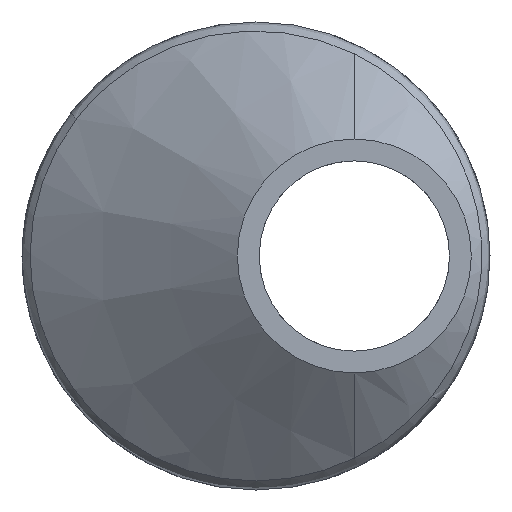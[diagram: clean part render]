
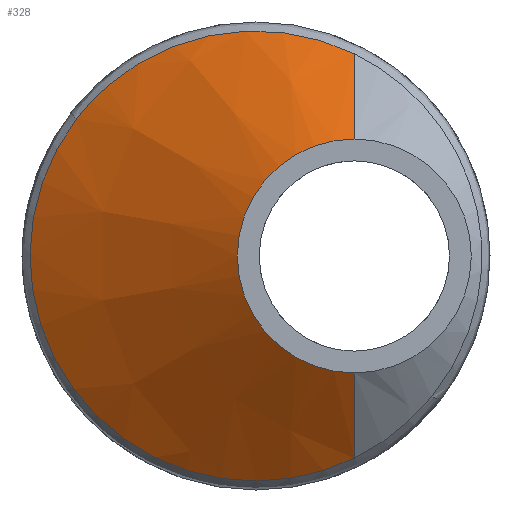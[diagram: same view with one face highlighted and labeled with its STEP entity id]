
A CAD part, left-side view. The second image highlights one B-rep face of the part: STEP entity #328.
In plain terms, the highlighted conical face has half-angle 54.078 degrees and reference radius 4.763 mm.
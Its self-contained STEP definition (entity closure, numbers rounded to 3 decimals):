
#19 = CARTESIAN_POINT ( 'NONE',  ( -27.718, 0.833, -9.138 ) ) ;
#21 = EDGE_CURVE ( 'NONE', #424, #289, #367, .T. ) ;
#33 = CARTESIAN_POINT ( 'NONE',  ( -26.993, 3.518, -8.475 ) ) ;
#59 = CIRCLE ( 'NONE', #538, 4.763 ) ;
#78 = AXIS2_PLACEMENT_3D ( 'NONE', #698, #683, #731 ) ;
#85 = VECTOR ( 'NONE', #368, 1000. ) ;
#106 = CARTESIAN_POINT ( 'NONE',  ( -27.178, 2.81, -8.743 ) ) ;
#113 = CARTESIAN_POINT ( 'NONE',  ( -29.239, -4.003, 8.229 ) ) ;
#146 = ORIENTED_EDGE ( 'NONE', *, *, #1204, .T. ) ;
#185 = EDGE_CURVE ( 'NONE', #289, #1216, #226, .T. ) ;
#205 = CARTESIAN_POINT ( 'NONE',  ( -26.593, 5.101, -7.65 ) ) ;
#218 = CARTESIAN_POINT ( 'NONE',  ( -25.929, 7.9, 4.731 ) ) ;
#226 = B_SPLINE_CURVE_WITH_KNOTS ( 'NONE', 3,
 ( #687, #251, #218, #1149, #836, #794, #1050, #332, #842, #1063, #939, #933, #849, #578, #767, #762, #750, #660, #656, #584, #571, #745, #787, #1193, #873, #978, #322, #480, #205, #310, #305, #298, #33, #106, #494, #984, #19, #730, #1178, #1171, #1168, #1160, #1154, #1140 ),
 .UNSPECIFIED., .F., .F.,
 ( 4, 2, 2, 2, 2, 2, 2, 2, 2, 2, 2, 2, 2, 2, 2, 2, 2, 2, 2, 2, 2, 4 ),
 ( 0.029, 0.031, 0.032, 0.033, 0.034, 0.036, 0.036, 0.037, 0.039, 0.04, 0.04, 0.042, 0.043, 0.043, 0.045, 0.046, 0.047, 0.048, 0.05, 0.051, 0.053, 0.054 ),
 .UNSPECIFIED. ) ;
#251 = CARTESIAN_POINT ( 'NONE',  ( -25.994, 7.616, 5.172 ) ) ;
#289 = VERTEX_POINT ( 'NONE', #951 ) ;
#298 = CARTESIAN_POINT ( 'NONE',  ( -26.933, 3.751, -8.376 ) ) ;
#305 = CARTESIAN_POINT ( 'NONE',  ( -26.816, 4.211, -8.157 ) ) ;
#309 = VECTOR ( 'NONE', #354, 1000. ) ;
#310 = CARTESIAN_POINT ( 'NONE',  ( -26.758, 4.439, -8.036 ) ) ;
#314 = ORIENTED_EDGE ( 'NONE', *, *, #185, .T. ) ;
#320 = FACE_OUTER_BOUND ( 'NONE', #659, .T. ) ;
#322 = CARTESIAN_POINT ( 'NONE',  ( -26.349, 6.105, -6.867 ) ) ;
#328 = ADVANCED_FACE ( 'NONE', ( #320 ), #499, .T. ) ;
#332 = CARTESIAN_POINT ( 'NONE',  ( -25.676, 9.018, 1.832 ) ) ;
#334 = DIRECTION ( 'NONE',  ( 0., 0., -1. ) ) ;
#354 = DIRECTION ( 'NONE',  ( 0.587, 0., -0.81 ) ) ;
#367 = B_SPLINE_CURVE_WITH_KNOTS ( 'NONE', 3,
 ( #821, #760, #818, #723, #736, #726, #824, #749, #1209, #912, #917, #1139, #1133, #1124, #1127, #1152, #1145, #925, #932, #943, #948, #1010 ),
 .UNSPECIFIED., .F., .F.,
 ( 4, 2, 2, 2, 2, 2, 2, 2, 2, 2, 4 ),
 ( 0.016, 0.018, 0.02, 0.021, 0.022, 0.023, 0.024, 0.025, 0.026, 0.028, 0.029 ),
 .UNSPECIFIED. ) ;
#368 = DIRECTION ( 'NONE',  ( 0.587, 0., 0.81 ) ) ;
#377 = ORIENTED_EDGE ( 'NONE', *, *, #21, .T. ) ;
#424 = VERTEX_POINT ( 'NONE', #113 ) ;
#463 = ORIENTED_EDGE ( 'NONE', *, *, #1094, .T. ) ;
#480 = CARTESIAN_POINT ( 'NONE',  ( -26.491, 5.518, -7.357 ) ) ;
#494 = CARTESIAN_POINT ( 'NONE',  ( -27.306, 2.327, -8.882 ) ) ;
#499 = CONICAL_SURFACE ( 'NONE', #78, 4.763, 0.944 ) ;
#530 = CARTESIAN_POINT ( 'NONE',  ( -29.239, -4.002, -8.229 ) ) ;
#538 = AXIS2_PLACEMENT_3D ( 'NONE', #859, #781, #334 ) ;
#547 = CARTESIAN_POINT ( 'NONE',  ( -31.75, -4.003, -4.762 ) ) ;
#552 = LINE ( 'NONE', #547, #309 ) ;
#571 = CARTESIAN_POINT ( 'NONE',  ( -25.897, 8.039, -4.468 ) ) ;
#578 = CARTESIAN_POINT ( 'NONE',  ( -25.655, 9.113, -1.282 ) ) ;
#584 = CARTESIAN_POINT ( 'NONE',  ( -25.869, 8.162, -4.241 ) ) ;
#656 = CARTESIAN_POINT ( 'NONE',  ( -25.817, 8.39, -3.773 ) ) ;
#659 = EDGE_LOOP ( 'NONE', ( #146, #463, #377, #314, #862 ) ) ;
#660 = CARTESIAN_POINT ( 'NONE',  ( -25.794, 8.495, -3.532 ) ) ;
#677 = CARTESIAN_POINT ( 'NONE',  ( -31.75, -4.003, 4.763 ) ) ;
#683 = DIRECTION ( 'NONE',  ( 1., 0., 0. ) ) ;
#687 = CARTESIAN_POINT ( 'NONE',  ( -26.067, 7.299, 5.584 ) ) ;
#698 = CARTESIAN_POINT ( 'NONE',  ( -31.75, -4.003, 0. ) ) ;
#713 = VERTEX_POINT ( 'NONE', #924 ) ;
#723 = CARTESIAN_POINT ( 'NONE',  ( -28.59, -2.071, 8.93 ) ) ;
#726 = CARTESIAN_POINT ( 'NONE',  ( -28.115, -0.532, 9.156 ) ) ;
#730 = CARTESIAN_POINT ( 'NONE',  ( -28.006, -0.166, -9.17 ) ) ;
#731 = DIRECTION ( 'NONE',  ( 0., 0., -1. ) ) ;
#736 = CARTESIAN_POINT ( 'NONE',  ( -28.428, -1.558, 9.035 ) ) ;
#745 = CARTESIAN_POINT ( 'NONE',  ( -25.988, 7.643, -5.132 ) ) ;
#749 = CARTESIAN_POINT ( 'NONE',  ( -27.739, 0.763, 9.134 ) ) ;
#750 = CARTESIAN_POINT ( 'NONE',  ( -25.73, 8.776, -2.801 ) ) ;
#760 = CARTESIAN_POINT ( 'NONE',  ( -29.076, -3.54, 8.454 ) ) ;
#762 = CARTESIAN_POINT ( 'NONE',  ( -25.698, 8.92, -2.303 ) ) ;
#767 = CARTESIAN_POINT ( 'NONE',  ( -25.664, 9.073, -1.539 ) ) ;
#781 = DIRECTION ( 'NONE',  ( 1., 0., 0. ) ) ;
#787 = CARTESIAN_POINT ( 'NONE',  ( -26.057, 7.343, -5.551 ) ) ;
#794 = CARTESIAN_POINT ( 'NONE',  ( -25.719, 8.828, 2.595 ) ) ;
#818 = CARTESIAN_POINT ( 'NONE',  ( -28.914, -3.062, 8.639 ) ) ;
#821 = CARTESIAN_POINT ( 'NONE',  ( -29.239, -4.003, 8.229 ) ) ;
#824 = CARTESIAN_POINT ( 'NONE',  ( -27.962, -0.016, 9.174 ) ) ;
#836 = CARTESIAN_POINT ( 'NONE',  ( -25.773, 8.585, 3.338 ) ) ;
#842 = CARTESIAN_POINT ( 'NONE',  ( -25.665, 9.067, 1.576 ) ) ;
#849 = CARTESIAN_POINT ( 'NONE',  ( -25.642, 9.172, -0.762 ) ) ;
#859 = CARTESIAN_POINT ( 'NONE',  ( -31.75, -4.003, 0. ) ) ;
#862 = ORIENTED_EDGE ( 'NONE', *, *, #1157, .F. ) ;
#873 = CARTESIAN_POINT ( 'NONE',  ( -26.217, 6.661, -6.332 ) ) ;
#891 = CARTESIAN_POINT ( 'NONE',  ( -31.75, -4.003, 4.763 ) ) ;
#912 = CARTESIAN_POINT ( 'NONE',  ( -27.52, 1.544, 9.037 ) ) ;
#913 = VERTEX_POINT ( 'NONE', #677 ) ;
#917 = CARTESIAN_POINT ( 'NONE',  ( -27.449, 1.801, 8.991 ) ) ;
#924 = CARTESIAN_POINT ( 'NONE',  ( -31.75, -4.003, -4.762 ) ) ;
#925 = CARTESIAN_POINT ( 'NONE',  ( -26.52, 5.399, 7.445 ) ) ;
#932 = CARTESIAN_POINT ( 'NONE',  ( -26.418, 5.818, 7.125 ) ) ;
#933 = CARTESIAN_POINT ( 'NONE',  ( -25.638, 9.19, -0.499 ) ) ;
#939 = CARTESIAN_POINT ( 'NONE',  ( -25.633, 9.21, 0.286 ) ) ;
#943 = CARTESIAN_POINT ( 'NONE',  ( -26.23, 6.603, 6.41 ) ) ;
#948 = CARTESIAN_POINT ( 'NONE',  ( -26.144, 6.971, 6.011 ) ) ;
#951 = CARTESIAN_POINT ( 'NONE',  ( -26.067, 7.299, 5.584 ) ) ;
#978 = CARTESIAN_POINT ( 'NONE',  ( -26.304, 6.295, -6.695 ) ) ;
#984 = CARTESIAN_POINT ( 'NONE',  ( -27.576, 1.34, -9.079 ) ) ;
#1010 = CARTESIAN_POINT ( 'NONE',  ( -26.067, 7.299, 5.584 ) ) ;
#1046 = LINE ( 'NONE', #891, #85 ) ;
#1050 = CARTESIAN_POINT ( 'NONE',  ( -25.703, 8.899, 2.342 ) ) ;
#1063 = CARTESIAN_POINT ( 'NONE',  ( -25.64, 9.179, 0.804 ) ) ;
#1094 = EDGE_CURVE ( 'NONE', #913, #424, #1046, .T. ) ;
#1124 = CARTESIAN_POINT ( 'NONE',  ( -26.922, 3.793, 8.357 ) ) ;
#1127 = CARTESIAN_POINT ( 'NONE',  ( -26.861, 4.035, 8.245 ) ) ;
#1133 = CARTESIAN_POINT ( 'NONE',  ( -27.111, 3.063, 8.66 ) ) ;
#1139 = CARTESIAN_POINT ( 'NONE',  ( -27.243, 2.565, 8.818 ) ) ;
#1140 = CARTESIAN_POINT ( 'NONE',  ( -29.239, -4.002, -8.229 ) ) ;
#1145 = CARTESIAN_POINT ( 'NONE',  ( -26.685, 4.733, 7.868 ) ) ;
#1149 = CARTESIAN_POINT ( 'NONE',  ( -25.819, 8.383, 3.815 ) ) ;
#1152 = CARTESIAN_POINT ( 'NONE',  ( -26.742, 4.505, 8. ) ) ;
#1154 = CARTESIAN_POINT ( 'NONE',  ( -29.082, -3.557, -8.446 ) ) ;
#1157 = EDGE_CURVE ( 'NONE', #713, #1216, #552, .T. ) ;
#1160 = CARTESIAN_POINT ( 'NONE',  ( -28.925, -3.096, -8.626 ) ) ;
#1168 = CARTESIAN_POINT ( 'NONE',  ( -28.613, -2.143, -8.912 ) ) ;
#1171 = CARTESIAN_POINT ( 'NONE',  ( -28.456, -1.649, -9.018 ) ) ;
#1178 = CARTESIAN_POINT ( 'NONE',  ( -28.154, -0.662, -9.146 ) ) ;
#1193 = CARTESIAN_POINT ( 'NONE',  ( -26.175, 6.839, -6.141 ) ) ;
#1204 = EDGE_CURVE ( 'NONE', #713, #913, #59, .T. ) ;
#1209 = CARTESIAN_POINT ( 'NONE',  ( -27.665, 1.025, 9.109 ) ) ;
#1216 = VERTEX_POINT ( 'NONE', #530 ) ;
